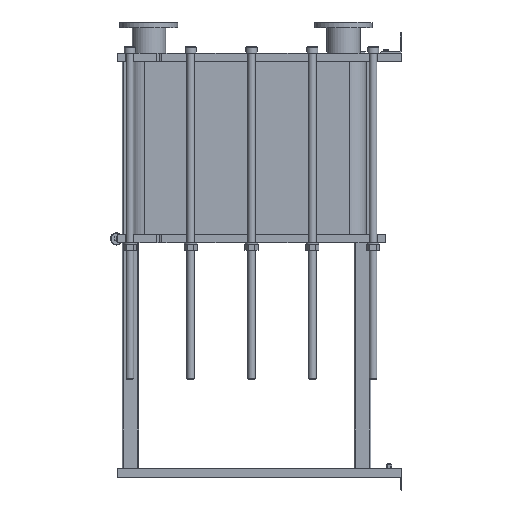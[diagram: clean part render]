
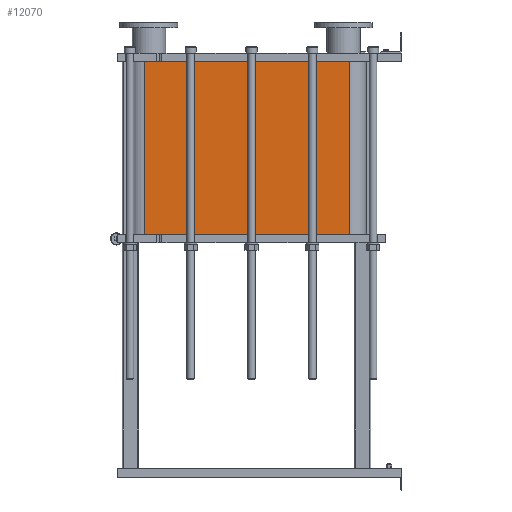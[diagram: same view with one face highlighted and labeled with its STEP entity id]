
A CAD part, left-side view. The second image highlights one B-rep face of the part: STEP entity #12070.
In plain terms, the highlighted planar face has unit normal (-1, 0, 0).
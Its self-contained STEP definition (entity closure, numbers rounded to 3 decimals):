
#1064=LINE('',#21140,#2164);
#1065=LINE('',#21144,#2165);
#1066=LINE('',#21146,#2166);
#1067=LINE('',#21147,#2167);
#2164=VECTOR('',#15790,10.);
#2165=VECTOR('',#15795,10.);
#2166=VECTOR('',#15796,10.);
#2167=VECTOR('',#15797,10.);
#3304=FACE_OUTER_BOUND('',#4091,.T.);
#4091=EDGE_LOOP('',(#9793,#9794,#9795,#9796));
#5677=VERTEX_POINT('',#21137);
#5678=VERTEX_POINT('',#21139);
#5679=VERTEX_POINT('',#21143);
#5680=VERTEX_POINT('',#21145);
#7118=EDGE_CURVE('',#5678,#5677,#1064,.T.);
#7120=EDGE_CURVE('',#5677,#5679,#1065,.T.);
#7121=EDGE_CURVE('',#5680,#5679,#1066,.T.);
#7122=EDGE_CURVE('',#5680,#5678,#1067,.T.);
#9793=ORIENTED_EDGE('',*,*,#7120,.T.);
#9794=ORIENTED_EDGE('',*,*,#7121,.F.);
#9795=ORIENTED_EDGE('',*,*,#7122,.T.);
#9796=ORIENTED_EDGE('',*,*,#7118,.T.);
#11441=PLANE('',#13191);
#12070=ADVANCED_FACE('',(#3304),#11441,.T.);
#13191=AXIS2_PLACEMENT_3D('',#21142,#15793,#15794);
#15790=DIRECTION('',(0.,0.,-1.));
#15793=DIRECTION('center_axis',(-1.,0.,0.));
#15794=DIRECTION('ref_axis',(0.,1.,0.));
#15795=DIRECTION('',(0.,-1.,0.));
#15796=DIRECTION('',(0.,0.,-1.));
#15797=DIRECTION('',(0.,1.,0.));
#21137=CARTESIAN_POINT('',(-248.152,1243.818,-838.35));
#21139=CARTESIAN_POINT('',(-248.152,1243.818,0.));
#21140=CARTESIAN_POINT('',(-248.152,1243.818,0.));
#21142=CARTESIAN_POINT('Origin',(-248.152,251.818,0.));
#21143=CARTESIAN_POINT('',(-248.152,251.818,-838.35));
#21144=CARTESIAN_POINT('',(-248.152,499.818,-838.35));
#21145=CARTESIAN_POINT('',(-248.152,251.818,0.));
#21146=CARTESIAN_POINT('',(-248.152,251.818,0.));
#21147=CARTESIAN_POINT('',(-248.152,251.818,0.));
